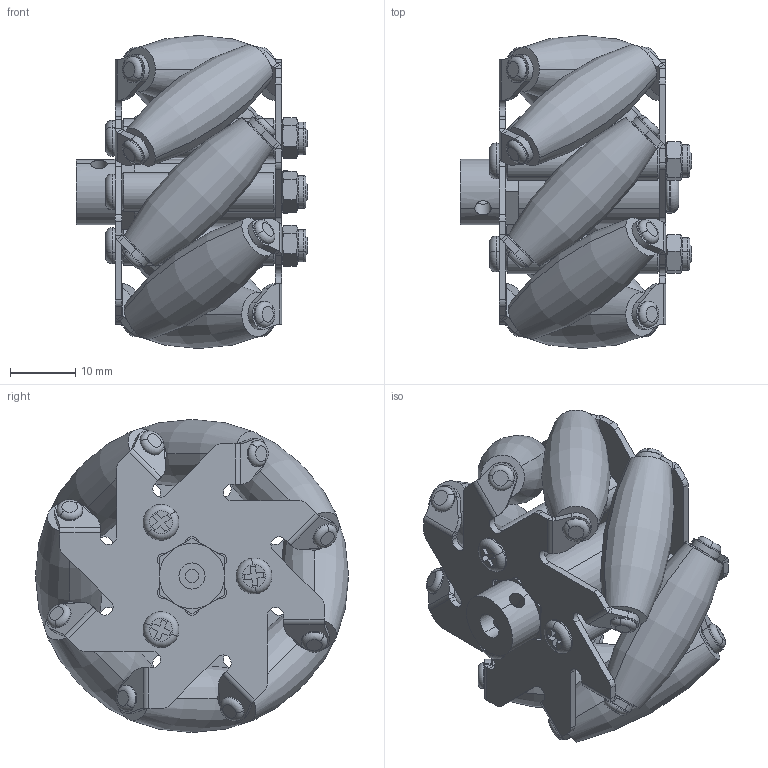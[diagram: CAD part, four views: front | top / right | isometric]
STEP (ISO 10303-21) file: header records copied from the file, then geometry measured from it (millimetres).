
FILE_DESCRIPTION(('Open CASCADE Model'),'2;1');
FILE_NAME('MM101-R.STEP','2026-10-18T18:07:09',('Author'),( 'Open CASCADE'),'Open CASCADE STEP processor 7.9','Open CASCADE 7.9' ,'Unknown');
FILE_SCHEMA(('AUTOMOTIVE_DESIGN { 1 0 10303 214 1 1 1 1 }'));
Length unit declared in the file: millimetre
Products named in the file (12): MM101-R; Open CASCADE STEP translator 7.9 2.1; Open CASCADE STEP translator 7.9 2.2; Open CASCADE STEP translator 7.9 2.3; Open CASCADE STEP translator 7.9 2.4; Open CASCADE STEP translator 7.9 2.5; Open CASCADE STEP translator 7.9 2.6; Open CASCADE STEP translator 7.9 2.7; Open CASCADE STEP translator 7.9 2.8; Open CASCADE STEP translator 7.9 2.9; Open CASCADE STEP translator 7.9 2.10; Open CASCADE STEP translator 7.9 2.11
Assembly tree (38 placements, depth 2):
  MM101-R
    Open CASCADE STEP translator 7.9 2.1  x8
    Open CASCADE STEP translator 7.9 2.2
    Open CASCADE STEP translator 7.9 2.3
    Open CASCADE STEP translator 7.9 2.4  x8
    Open CASCADE STEP translator 7.9 2.5  x8
    Open CASCADE STEP translator 7.9 2.6
    Open CASCADE STEP translator 7.9 2.7
    Open CASCADE STEP translator 7.9 2.8  x3
    Open CASCADE STEP translator 7.9 2.9
    Open CASCADE STEP translator 7.9 2.10  x3
    Open CASCADE STEP translator 7.9 2.11  x3
Bounding box: 35.5 x 47.84 x 47.84 mm (x, y, z)
Volume: 19808.6 mm3; surface area: 21683.4 mm2
Topology: 38 solids, 38 shells, 867 faces, 1961 edges, 1212 vertices
Faces by surface type: plane 392, cylinder 349, cone 56, torus 54, revolution 16
Entity records: 33978 total; most frequent: CARTESIAN_POINT 7989, DIRECTION 5063, LINE 2767, VECTOR 2767, ORIENTED_EDGE 2506, PCURVE 2506, DEFINITIONAL_REPRESENTATION 2506, EDGE_CURVE 1253
